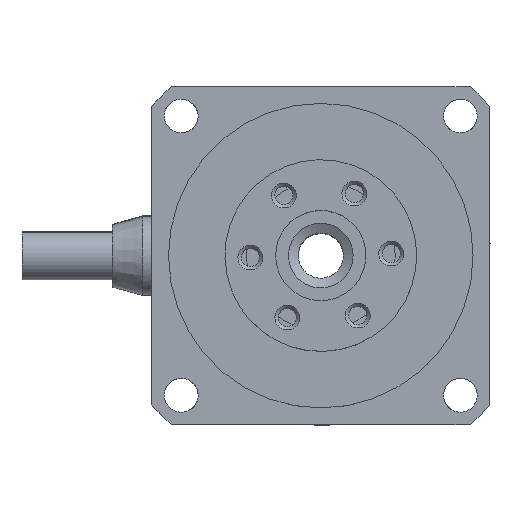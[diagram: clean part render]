
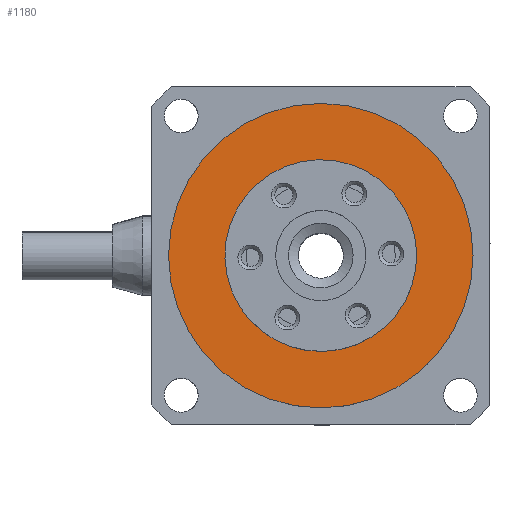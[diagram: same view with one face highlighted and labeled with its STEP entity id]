
A CAD part, top view. The second image highlights one B-rep face of the part: STEP entity #1180.
In plain terms, the highlighted planar face has unit normal (0, 0, 1).
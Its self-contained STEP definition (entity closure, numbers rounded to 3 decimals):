
#1180=ADVANCED_FACE('',(#2334,#2335),#2336,.T.);
#2334=FACE_BOUND('',#3479,.T.);
#2335=FACE_OUTER_BOUND('',#3480,.T.);
#2336=PLANE('',#3481);
#3479=EDGE_LOOP('',(#5632));
#3480=EDGE_LOOP('',(#5633));
#3481=AXIS2_PLACEMENT_3D('',#5634,#5635,#5636);
#5632=ORIENTED_EDGE('',*,*,#6558,.F.);
#5633=ORIENTED_EDGE('',*,*,#6560,.T.);
#5634=CARTESIAN_POINT('',(0.0,0.0,6.0));
#5635=DIRECTION('',(0.0,0.0,1.0));
#5636=DIRECTION('',(1.0,0.0,0.0));
#6558=EDGE_CURVE('',#7771,#7771,#7772,.T.);
#6560=EDGE_CURVE('',#7774,#7774,#7775,.T.);
#7771=VERTEX_POINT('',#9950);
#7772=CIRCLE('',#9951,7.5);
#7774=VERTEX_POINT('',#9953);
#7775=CIRCLE('',#9954,13.5);
#9950=CARTESIAN_POINT('',(-7.5,0.0,6.0));
#9951=AXIS2_PLACEMENT_3D('',#10974,#10975,#10976);
#9953=CARTESIAN_POINT('',(13.5,0.0,6.0));
#9954=AXIS2_PLACEMENT_3D('',#10977,#10978,#10979);
#10974=CARTESIAN_POINT('',(0.0,0.0,6.0));
#10975=DIRECTION('',(0.0,0.0,1.0));
#10976=DIRECTION('',(-1.0,0.0,0.0));
#10977=CARTESIAN_POINT('',(0.0,0.0,6.0));
#10978=DIRECTION('',(0.0,0.0,1.0));
#10979=DIRECTION('',(1.0,0.0,0.0));
